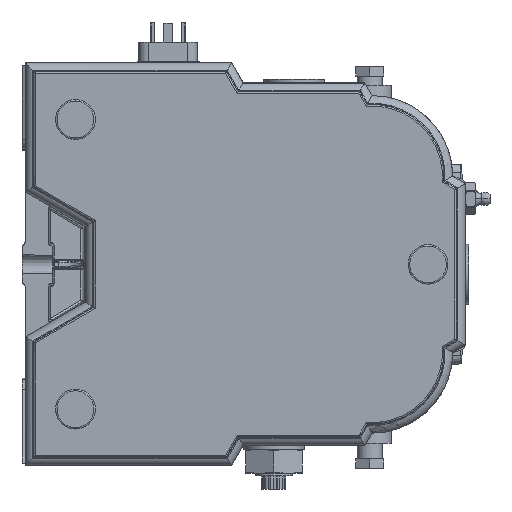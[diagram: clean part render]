
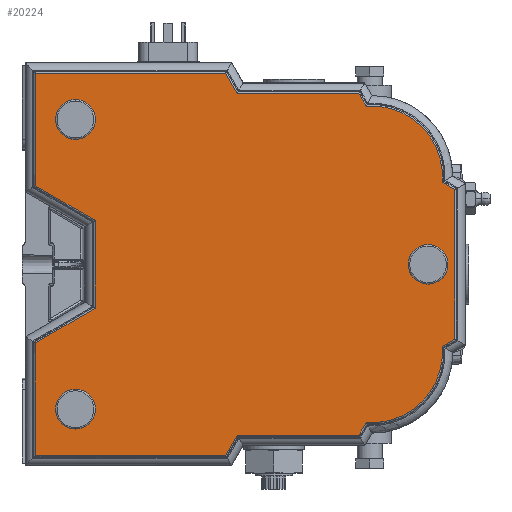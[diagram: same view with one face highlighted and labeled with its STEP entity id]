
A CAD part, front view. The second image highlights one B-rep face of the part: STEP entity #20224.
In plain terms, the highlighted planar face has unit normal (0, -1, 0).
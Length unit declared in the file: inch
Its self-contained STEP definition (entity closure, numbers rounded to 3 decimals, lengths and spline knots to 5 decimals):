
#18709=DIRECTION('',(-0.5,0.,0.866));
#18710=VECTOR('',#18709,0.46188);
#18711=CARTESIAN_POINT('',(4.27101,-5.6,3.39217));
#18712=LINE('',#18711,#18710);
#18713=DIRECTION('',(-1.,0.,0.));
#18714=VECTOR('',#18713,2.41466);
#18715=CARTESIAN_POINT('',(6.68567,-5.6,3.39217));
#18716=LINE('',#18715,#18714);
#18717=DIRECTION('',(-0.5,0.,0.866));
#18718=VECTOR('',#18717,0.29438);
#18719=CARTESIAN_POINT('',(6.83286,-5.6,3.13723));
#18720=LINE('',#18719,#18718);
#18721=CARTESIAN_POINT('',(6.95,-5.6,1.75));
#18722=DIRECTION('',(0.,-1.,0.));
#18723=DIRECTION('',(0.996,0.,-0.084));
#18724=AXIS2_PLACEMENT_3D('',#18721,#18722,#18723);
#18726=DIRECTION('',(-0.866,0.,0.5));
#18727=VECTOR('',#18726,0.29439);
#18728=CARTESIAN_POINT('',(8.59217,-5.6,1.48551));
#18729=LINE('',#18728,#18727);
#18730=DIRECTION('',(0.,0.,1.));
#18731=VECTOR('',#18730,2.97102);
#18732=CARTESIAN_POINT('',(8.59217,-5.6,-1.48551));
#18733=LINE('',#18732,#18731);
#18734=DIRECTION('',(0.866,0.,0.5));
#18735=VECTOR('',#18734,0.29439);
#18736=CARTESIAN_POINT('',(8.33722,-5.6,-1.63271));
#18737=LINE('',#18736,#18735);
#18738=CARTESIAN_POINT('',(6.95,-5.6,-1.75));
#18739=DIRECTION('',(0.,-1.,0.));
#18740=DIRECTION('',(-0.084,0.,-0.996));
#18741=AXIS2_PLACEMENT_3D('',#18738,#18739,#18740);
#18743=DIRECTION('',(0.5,0.,0.866));
#18744=VECTOR('',#18743,0.29438);
#18745=CARTESIAN_POINT('',(6.68567,-5.6,-3.39217));
#18746=LINE('',#18745,#18744);
#18747=DIRECTION('',(1.,0.,0.));
#18748=VECTOR('',#18747,2.41466);
#18749=CARTESIAN_POINT('',(4.27101,-5.6,-3.39217));
#18750=LINE('',#18749,#18748);
#18751=DIRECTION('',(0.5,0.,0.866));
#18752=VECTOR('',#18751,0.46188);
#18753=CARTESIAN_POINT('',(4.04007,-5.6,-3.79217));
#18754=LINE('',#18753,#18752);
#18755=DIRECTION('',(1.,0.,0.));
#18756=VECTOR('',#18755,3.77224);
#18757=CARTESIAN_POINT('',(0.26783,-5.6,-3.79217));
#18758=LINE('',#18757,#18756);
#18759=DIRECTION('',(0.,0.,-1.));
#18760=VECTOR('',#18759,2.23513);
#18761=CARTESIAN_POINT('',(0.26783,-5.6,-1.55704));
#18762=LINE('',#18761,#18760);
#18763=DIRECTION('',(-0.866,0.,-0.5));
#18764=VECTOR('',#18763,1.37409);
#18765=CARTESIAN_POINT('',(1.45783,-5.6,-0.86999));
#18766=LINE('',#18765,#18764);
#18767=DIRECTION('',(0.,0.,-1.));
#18768=VECTOR('',#18767,1.73998);
#18769=CARTESIAN_POINT('',(1.45783,-5.6,0.86999));
#18770=LINE('',#18769,#18768);
#18771=DIRECTION('',(0.866,0.,-0.5));
#18772=VECTOR('',#18771,1.37409);
#18773=CARTESIAN_POINT('',(0.26783,-5.6,1.55704));
#18774=LINE('',#18773,#18772);
#18775=DIRECTION('',(0.,0.,-1.));
#18776=VECTOR('',#18775,2.23513);
#18777=CARTESIAN_POINT('',(0.26783,-5.6,3.79217));
#18778=LINE('',#18777,#18776);
#18779=DIRECTION('',(-1.,0.,0.));
#18780=VECTOR('',#18779,3.77224);
#18781=CARTESIAN_POINT('',(4.04007,-5.6,3.79217));
#18782=LINE('',#18781,#18780);
#19471=CARTESIAN_POINT('',(4.27101,-5.6,3.39217));
#19472=CARTESIAN_POINT('',(4.04007,-5.6,3.79217));
#19473=VERTEX_POINT('',#19471);
#19474=VERTEX_POINT('',#19472);
#19477=CARTESIAN_POINT('',(0.26783,-5.6,3.79217));
#19478=VERTEX_POINT('',#19477);
#19481=CARTESIAN_POINT('',(0.26783,-5.6,1.55704));
#19482=VERTEX_POINT('',#19481);
#19485=CARTESIAN_POINT('',(1.45783,-5.6,0.86999));
#19486=VERTEX_POINT('',#19485);
#19489=CARTESIAN_POINT('',(1.45783,-5.6,-0.86999));
#19490=VERTEX_POINT('',#19489);
#19493=CARTESIAN_POINT('',(0.26783,-5.6,-1.55704));
#19494=VERTEX_POINT('',#19493);
#19497=CARTESIAN_POINT('',(0.26783,-5.6,-3.79217));
#19498=VERTEX_POINT('',#19497);
#19501=CARTESIAN_POINT('',(4.04007,-5.6,-3.79217));
#19502=VERTEX_POINT('',#19501);
#19505=CARTESIAN_POINT('',(4.27101,-5.6,-3.39217));
#19506=VERTEX_POINT('',#19505);
#19509=CARTESIAN_POINT('',(6.68567,-5.6,-3.39217));
#19510=VERTEX_POINT('',#19509);
#19513=CARTESIAN_POINT('',(6.83286,-5.6,-3.13723));
#19514=VERTEX_POINT('',#19513);
#19517=CARTESIAN_POINT('',(8.33722,-5.6,-1.63271));
#19518=VERTEX_POINT('',#19517);
#19521=CARTESIAN_POINT('',(8.59217,-5.6,-1.48551));
#19522=VERTEX_POINT('',#19521);
#19525=CARTESIAN_POINT('',(8.59217,-5.6,1.48551));
#19526=VERTEX_POINT('',#19525);
#19529=CARTESIAN_POINT('',(8.33722,-5.6,1.63271));
#19530=VERTEX_POINT('',#19529);
#19533=CARTESIAN_POINT('',(6.83286,-5.6,3.13723));
#19534=VERTEX_POINT('',#19533);
#19535=CARTESIAN_POINT('',(6.68567,-5.6,3.39217));
#19536=VERTEX_POINT('',#19535);
#20181=CARTESIAN_POINT('',(0.06,-5.6,0.));
#20182=DIRECTION('',(0.,-1.,0.));
#20183=DIRECTION('',(1.,0.,0.));
#20184=AXIS2_PLACEMENT_3D('',#20181,#20182,#20183);
#20185=PLANE('',#20184);
#20187=ORIENTED_EDGE('',*,*,#20186,.F.);
#20189=ORIENTED_EDGE('',*,*,#20188,.F.);
#20191=ORIENTED_EDGE('',*,*,#20190,.F.);
#20193=ORIENTED_EDGE('',*,*,#20192,.F.);
#20195=ORIENTED_EDGE('',*,*,#20194,.F.);
#20197=ORIENTED_EDGE('',*,*,#20196,.F.);
#20199=ORIENTED_EDGE('',*,*,#20198,.F.);
#20201=ORIENTED_EDGE('',*,*,#20200,.F.);
#20203=ORIENTED_EDGE('',*,*,#20202,.F.);
#20205=ORIENTED_EDGE('',*,*,#20204,.F.);
#20207=ORIENTED_EDGE('',*,*,#20206,.F.);
#20209=ORIENTED_EDGE('',*,*,#20208,.F.);
#20211=ORIENTED_EDGE('',*,*,#20210,.F.);
#20213=ORIENTED_EDGE('',*,*,#20212,.F.);
#20215=ORIENTED_EDGE('',*,*,#20214,.F.);
#20217=ORIENTED_EDGE('',*,*,#20216,.F.);
#20219=ORIENTED_EDGE('',*,*,#20218,.F.);
#20221=ORIENTED_EDGE('',*,*,#20220,.F.);
#20222=EDGE_LOOP('',(#20187,#20189,#20191,#20193,#20195,#20197,#20199,#20201,
#20203,#20205,#20207,#20209,#20211,#20213,#20215,#20217,#20219,#20221));
#20223=FACE_OUTER_BOUND('',#20222,.F.);
#20224=ADVANCED_FACE('',(#20223),#20185,.T.);
#18725=CIRCLE('',#18724,1.39217);
#18742=CIRCLE('',#18741,1.39217);
#20186=EDGE_CURVE('',#19473,#19474,#18712,.T.);
#20188=EDGE_CURVE('',#19536,#19473,#18716,.T.);
#20190=EDGE_CURVE('',#19534,#19536,#18720,.T.);
#20192=EDGE_CURVE('',#19530,#19534,#18725,.T.);
#20194=EDGE_CURVE('',#19526,#19530,#18729,.T.);
#20196=EDGE_CURVE('',#19522,#19526,#18733,.T.);
#20198=EDGE_CURVE('',#19518,#19522,#18737,.T.);
#20200=EDGE_CURVE('',#19514,#19518,#18742,.T.);
#20202=EDGE_CURVE('',#19510,#19514,#18746,.T.);
#20204=EDGE_CURVE('',#19506,#19510,#18750,.T.);
#20206=EDGE_CURVE('',#19502,#19506,#18754,.T.);
#20208=EDGE_CURVE('',#19498,#19502,#18758,.T.);
#20210=EDGE_CURVE('',#19494,#19498,#18762,.T.);
#20212=EDGE_CURVE('',#19490,#19494,#18766,.T.);
#20214=EDGE_CURVE('',#19486,#19490,#18770,.T.);
#20216=EDGE_CURVE('',#19482,#19486,#18774,.T.);
#20218=EDGE_CURVE('',#19478,#19482,#18778,.T.);
#20220=EDGE_CURVE('',#19474,#19478,#18782,.T.);
